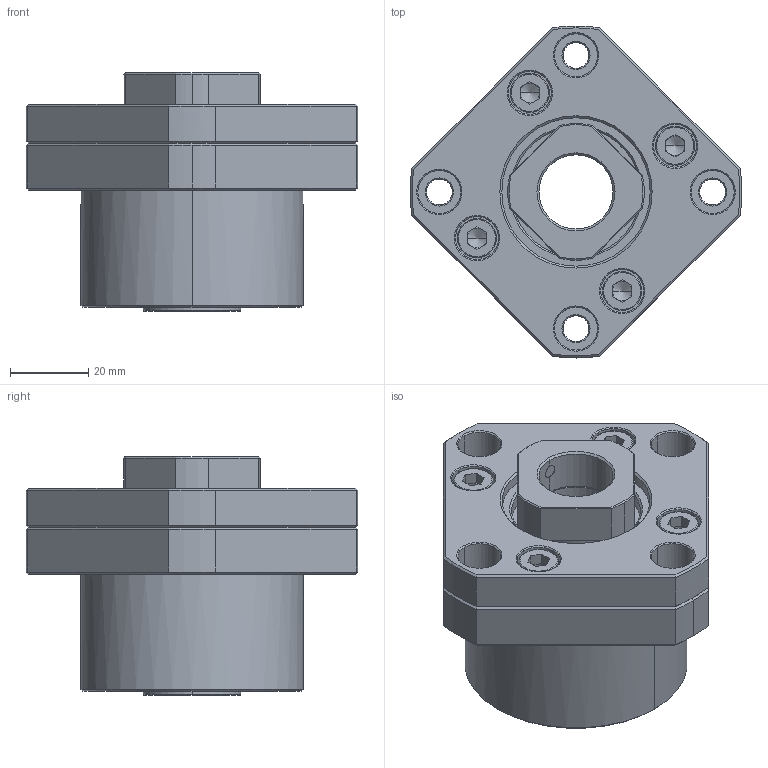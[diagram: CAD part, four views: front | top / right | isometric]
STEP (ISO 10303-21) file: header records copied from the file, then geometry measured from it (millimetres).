
FILE_DESCRIPTION (( 'STEP AP203' ), '1' );
FILE_NAME ('FSGK-20_203.STEP', '2013-02-28T00:28:16', ( '' ), ( '' ), 'SwSTEP 2.0', 'SolidWorks 2012', '' );
FILE_SCHEMA (( 'CONFIG_CONTROL_DESIGN' ));
Length unit declared in the file: millimetre
Products named in the file (1): FSGK-20_203
Bounding box: 84.9 x 85 x 61 mm (x, y, z)
Volume: 151675.1 mm3; surface area: 35157.4 mm2
Topology: 1 solids, 12 shells, 446 faces, 1012 edges, 598 vertices
Faces by surface type: cone 142, plane 138, cylinder 126, torus 40
Entity records: 12622 total; most frequent: DIRECTION 2347, CARTESIAN_POINT 2322, ORIENTED_EDGE 1988, EDGE_CURVE 994, AXIS2_PLACEMENT_3D 967, VERTEX_POINT 598, CIRCLE 520, EDGE_LOOP 502
